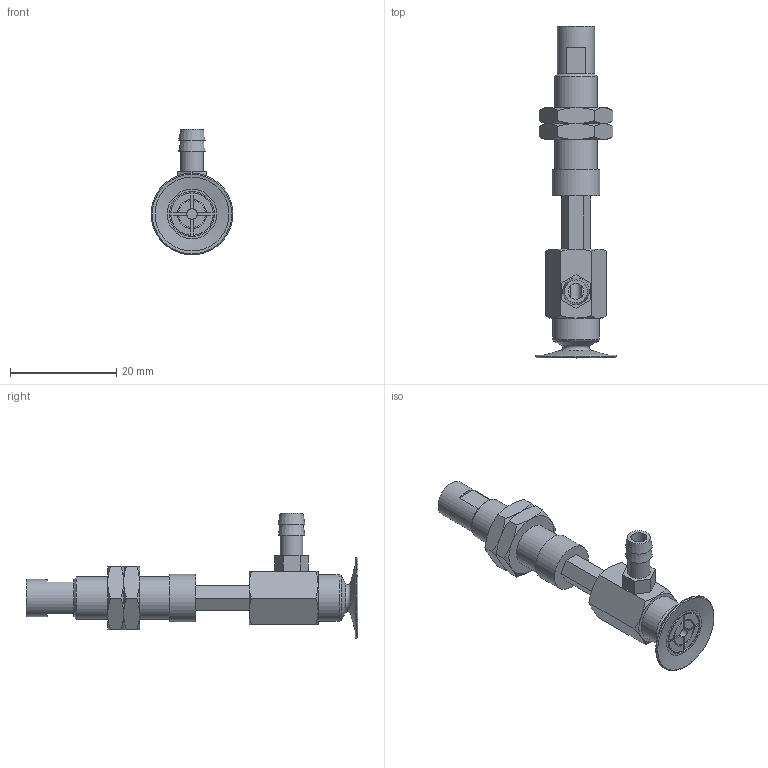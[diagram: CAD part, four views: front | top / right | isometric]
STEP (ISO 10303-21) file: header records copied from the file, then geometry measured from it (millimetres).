
FILE_DESCRIPTION(('STEP AP203'),'1');
FILE_NAME('-T.stp','2025-03-13T03:16:34',(' '),(' '),'Spatial InterOp 3D',' ',' ');
FILE_SCHEMA(('CONFIG_CONTROL_DESIGN'));
Length unit declared in the file: millimetre
Products named in the file (7): BNABPAYH-15B-10-※-T; NAPATH-10A-10--M; NAPATH-10A-10--F; Nut-10A-S; CONNECTOR-10A-10-PA; CONNECTOR-10A-3-T-PA; BPAG-15B-※
Assembly tree (7 placements, depth 2):
  BNABPAYH-15B-10-※-T
    NAPATH-10A-10--M
    NAPATH-10A-10--F
    Nut-10A-S  x2
    CONNECTOR-10A-10-PA
    CONNECTOR-10A-3-T-PA
    BPAG-15B-※
Bounding box: 15.4 x 62.5 x 23.7 mm (x, y, z)
Volume: 3697.8 mm3; surface area: 4893.7 mm2
Topology: 7 solids, 7 shells, 199 faces, 446 edges, 274 vertices
Faces by surface type: plane 95, cone 63, cylinder 31, torus 10
Full cylindrical faces by diameter (mm): 2 x2, 3 x1, 4 x2, 4.134 x2, 4.3 x1, 5 x2, 6 x2, 7 x1, 7.188 x2, 8 x1, 8.5 x1, 8.7 x1, 9 x1
Entity records: 5210 total; most frequent: CARTESIAN_POINT 1189, DIRECTION 762, ORIENTED_EDGE 686, EDGE_CURVE 343, AXIS2_PLACEMENT_3D 304, EDGE_LOOP 244, VERTEX_POINT 235, FACE_OUTER_BOUND 204
